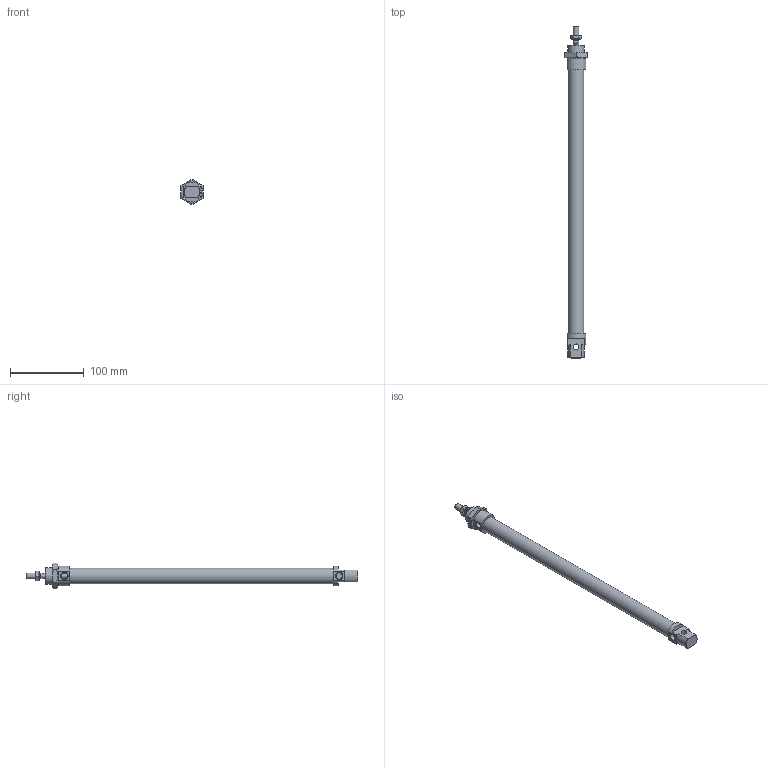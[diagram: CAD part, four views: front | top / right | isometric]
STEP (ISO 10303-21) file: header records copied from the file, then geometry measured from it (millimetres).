
FILE_DESCRIPTION((''),'2;1');
FILE_NAME('I:\Area Tecnica\Disegni\VARIE-3D\Componenti\1280\1280_##_####_#\1280_20_0320.iam.stp','2009-06-04T09:44:38',(''),(''),'Autodesk Inventor 2010','Autodesk Inventor 2010','');
FILE_SCHEMA(('AUTOMOTIVE_DESIGN { 1 0 10303 214 1 1 1 1 }'));
Length unit declared in the file: millimetre
Products named in the file (5): 1280_20_0320; C1280_20_320; S1280_20_320; 1200_20_05; 1200_20_06
Assembly tree (4 placements, depth 2):
  1280_20_0320
    C1280_20_320
    S1280_20_320
    1200_20_05
    1200_20_06
Bounding box: 30 x 450 x 34.64 mm (x, y, z)
Volume: 157313.6 mm3; surface area: 51928.9 mm2
Topology: 4 solids, 4 shells, 92 faces, 204 edges, 125 vertices
Faces by surface type: plane 41, cone 28, bspline 12, cylinder 11
Full cylindrical faces by diameter (mm): 6.5 x1, 8 x4, 21.2 x1, 22 x1
Entity records: 2742 total; most frequent: CARTESIAN_POINT 697, DIRECTION 376, ORIENTED_EDGE 356, EDGE_CURVE 178, AXIS2_PLACEMENT_3D 163, EDGE_LOOP 124, VERTEX_POINT 118, STYLED_ITEM 96
